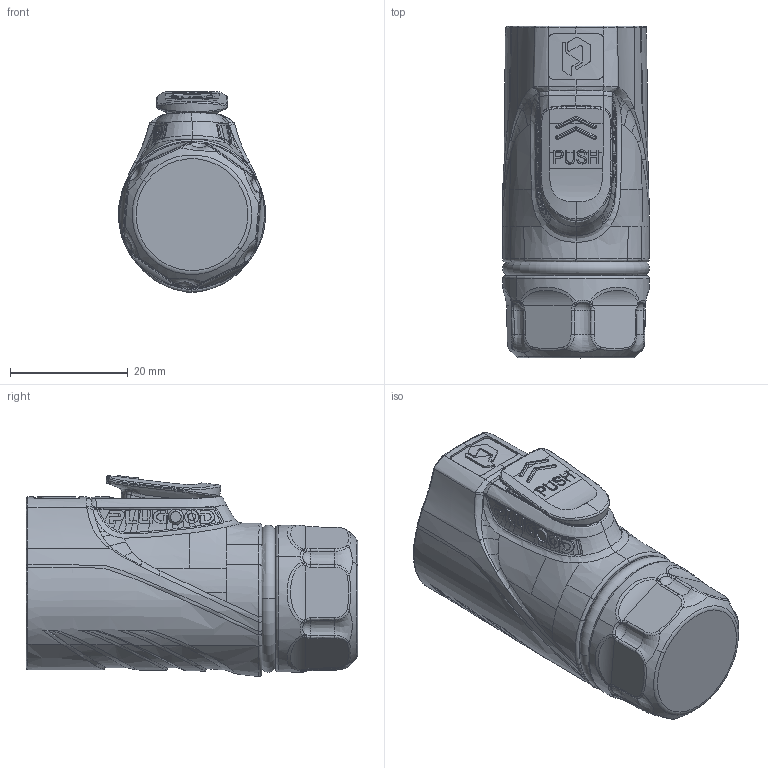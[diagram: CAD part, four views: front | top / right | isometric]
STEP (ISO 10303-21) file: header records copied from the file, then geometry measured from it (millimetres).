
FILE_DESCRIPTION (( 'STEP AP203' ), '1' );
FILE_NAME ('PLG16 9郋眻芛脣芛.STEP', '2025-10-29T08:33:50', ( '' ), ( '' ), 'SwSTEP 2.0', 'SolidWorks 2024', '' );
FILE_SCHEMA (( 'CONFIG_CONTROL_DESIGN' ));
Products named in the file (1): PLG16 9芯直头插头
Bounding box: 25 x 56.43 x 34.17 mm (x, y, z)
Volume: 26005.7 mm3; surface area: 11744.2 mm2
Topology: 2 solids, 5 shells, 1534 faces, 4134 edges, 2633 vertices
Faces by surface type: bspline 737, plane 375, cylinder 217, torus 111, cone 92, sphere 2
Entity records: 107557 total; most frequent: CARTESIAN_POINT 75179, ORIENTED_EDGE 8220, DIRECTION 4446, EDGE_CURVE 4110, VERTEX_POINT 2633, B_SPLINE_CURVE_WITH_KNOTS 2033, AXIS2_PLACEMENT_3D 1630, EDGE_LOOP 1607
